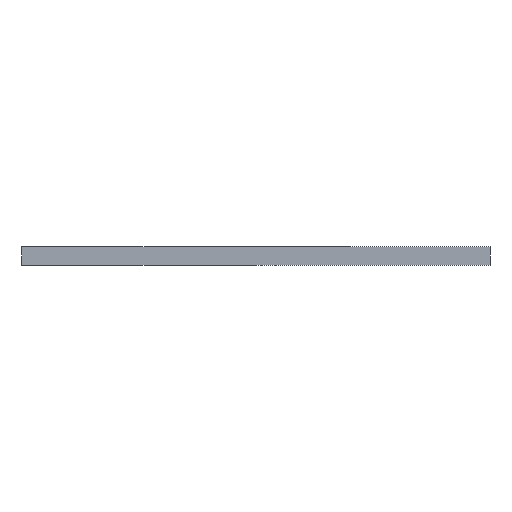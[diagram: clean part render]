
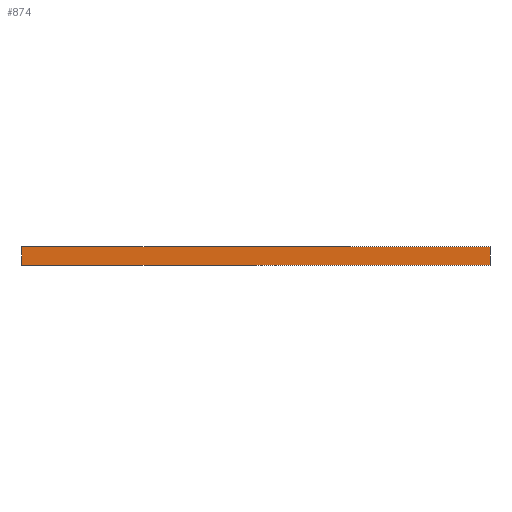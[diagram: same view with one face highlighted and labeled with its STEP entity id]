
A CAD part, front view. The second image highlights one B-rep face of the part: STEP entity #874.
In plain terms, the highlighted planar face has unit normal (0, -1, 0).
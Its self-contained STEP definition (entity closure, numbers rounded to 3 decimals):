
#129=FACE_OUTER_BOUND('',#184,.T.);
#184=EDGE_LOOP('',(#784,#785,#786,#787));
#258=LINE('',#1720,#339);
#265=LINE('',#1734,#346);
#266=LINE('',#1737,#347);
#267=LINE('',#1738,#348);
#339=VECTOR('',#1046,10.);
#346=VECTOR('',#1059,10.);
#347=VECTOR('',#1062,10.);
#348=VECTOR('',#1063,10.);
#425=VERTEX_POINT('',#1717);
#426=VERTEX_POINT('',#1719);
#430=VERTEX_POINT('',#1732);
#431=VERTEX_POINT('',#1736);
#544=EDGE_CURVE('',#425,#426,#258,.T.);
#551=EDGE_CURVE('',#430,#426,#265,.T.);
#552=EDGE_CURVE('',#431,#430,#266,.T.);
#553=EDGE_CURVE('',#431,#425,#267,.T.);
#784=ORIENTED_EDGE('',*,*,#552,.T.);
#785=ORIENTED_EDGE('',*,*,#551,.T.);
#786=ORIENTED_EDGE('',*,*,#544,.F.);
#787=ORIENTED_EDGE('',*,*,#553,.F.);
#825=PLANE('',#920);
#874=ADVANCED_FACE('',(#129),#825,.T.);
#920=AXIS2_PLACEMENT_3D('',#1735,#1060,#1061);
#1046=DIRECTION('',(1.,0.,0.));
#1059=DIRECTION('',(0.,0.,1.));
#1060=DIRECTION('center_axis',(0.,-1.,0.));
#1061=DIRECTION('ref_axis',(1.,0.,0.));
#1062=DIRECTION('',(1.,0.,0.));
#1063=DIRECTION('',(0.,0.,1.));
#1717=CARTESIAN_POINT('',(0.,0.,3.));
#1719=CARTESIAN_POINT('',(77.15,0.,3.));
#1720=CARTESIAN_POINT('',(0.,0.,3.));
#1732=CARTESIAN_POINT('',(77.15,0.,0.));
#1734=CARTESIAN_POINT('',(77.15,0.,0.));
#1735=CARTESIAN_POINT('Origin',(0.,0.,0.));
#1736=CARTESIAN_POINT('',(0.,0.,0.));
#1737=CARTESIAN_POINT('',(0.,0.,0.));
#1738=CARTESIAN_POINT('',(0.,0.,0.));
